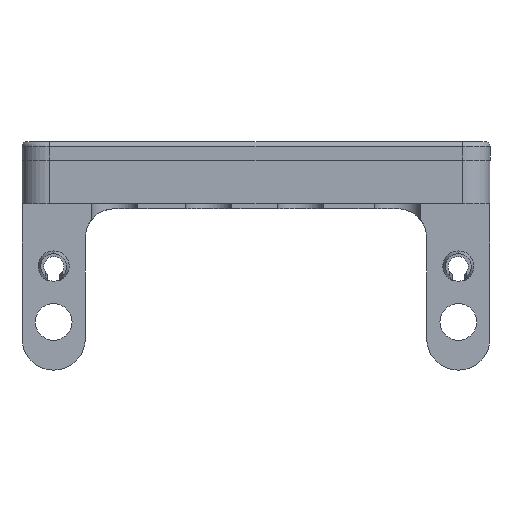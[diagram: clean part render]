
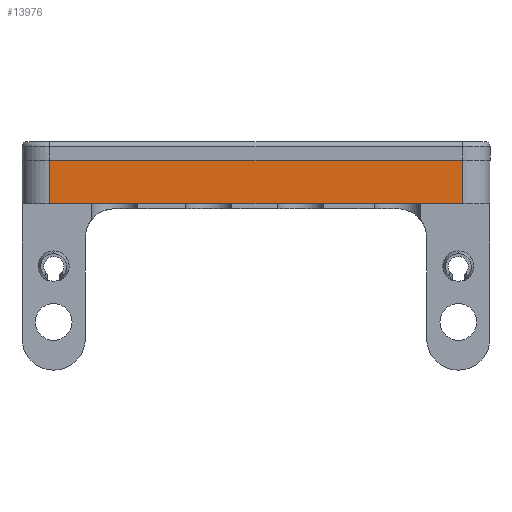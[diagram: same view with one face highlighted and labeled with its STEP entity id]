
A CAD part, front view. The second image highlights one B-rep face of the part: STEP entity #13976.
In plain terms, the highlighted planar face has unit normal (0, -1, 0).
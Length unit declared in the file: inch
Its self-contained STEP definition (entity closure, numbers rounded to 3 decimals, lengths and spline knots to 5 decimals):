
#1021 = EDGE_CURVE ( 'NONE', #8449, #6643, #2279, .T. ) ;
#2279 = LINE ( 'NONE', #24173, #18090 ) ;
#2763 = ORIENTED_EDGE ( 'NONE', *, *, #24110, .F. ) ;
#4221 = VERTEX_POINT ( 'NONE', #40707 ) ;
#4392 = CARTESIAN_POINT ( 'NONE',  ( -0.11, 0., -0.4975 ) ) ;
#6643 = VERTEX_POINT ( 'NONE', #18731 ) ;
#6821 = CARTESIAN_POINT ( 'NONE',  ( -1.01, 0., -0.135 ) ) ;
#8449 = VERTEX_POINT ( 'NONE', #6821 ) ;
#8722 = DIRECTION ( 'NONE',  ( 1., 0., 0. ) ) ;
#9417 = VERTEX_POINT ( 'NONE', #16790 ) ;
#10278 = VECTOR ( 'NONE', #14459, 39.37008 ) ;
#11888 = DIRECTION ( 'NONE',  ( 0., 0., 1. ) ) ;
#13618 = VECTOR ( 'NONE', #29913, 39.37008 ) ;
#13976 = ADVANCED_FACE ( 'NONE', ( #21536 ), #23643, .T. ) ;
#14459 = DIRECTION ( 'NONE',  ( 1., 0., 0. ) ) ;
#16743 = EDGE_CURVE ( 'NONE', #8449, #9417, #31168, .T. ) ;
#16790 = CARTESIAN_POINT ( 'NONE',  ( -0.11, 0., -0.135 ) ) ;
#18090 = VECTOR ( 'NONE', #11888, 39.37008 ) ;
#18731 = CARTESIAN_POINT ( 'NONE',  ( -1.01, 0., -0.04 ) ) ;
#19011 = LINE ( 'NONE', #4392, #13618 ) ;
#19322 = ORIENTED_EDGE ( 'NONE', *, *, #35965, .T. ) ;
#19325 = VECTOR ( 'NONE', #32650, 39.37008 ) ;
#19704 = AXIS2_PLACEMENT_3D ( 'NONE', #39834, #30652, #8722 ) ;
#21536 = FACE_OUTER_BOUND ( 'NONE', #33092, .T. ) ;
#23643 = PLANE ( 'NONE',  #19704 ) ;
#24110 = EDGE_CURVE ( 'NONE', #6643, #4221, #31049, .T. ) ;
#24173 = CARTESIAN_POINT ( 'NONE',  ( -1.01, 0., -0.4975 ) ) ;
#29913 = DIRECTION ( 'NONE',  ( 0., 0., 1. ) ) ;
#30652 = DIRECTION ( 'NONE',  ( 0., -1., 0. ) ) ;
#31049 = LINE ( 'NONE', #39751, #10278 ) ;
#31168 = LINE ( 'NONE', #35833, #19325 ) ;
#32650 = DIRECTION ( 'NONE',  ( 1., 0., 0. ) ) ;
#33092 = EDGE_LOOP ( 'NONE', ( #2763, #37834, #36379, #19322 ) ) ;
#35833 = CARTESIAN_POINT ( 'NONE',  ( -1.07, 0., -0.135 ) ) ;
#35965 = EDGE_CURVE ( 'NONE', #9417, #4221, #19011, .T. ) ;
#36379 = ORIENTED_EDGE ( 'NONE', *, *, #16743, .T. ) ;
#37834 = ORIENTED_EDGE ( 'NONE', *, *, #1021, .F. ) ;
#39751 = CARTESIAN_POINT ( 'NONE',  ( -1.07, 0., -0.04 ) ) ;
#39834 = CARTESIAN_POINT ( 'NONE',  ( -1.01, 0., -0.4975 ) ) ;
#40707 = CARTESIAN_POINT ( 'NONE',  ( -0.11, 0., -0.04 ) ) ;
